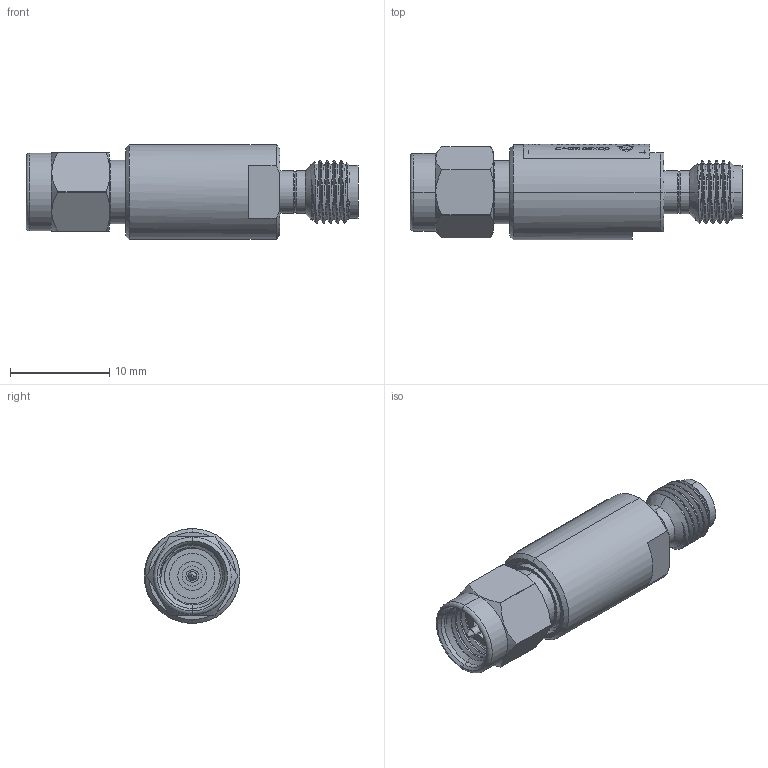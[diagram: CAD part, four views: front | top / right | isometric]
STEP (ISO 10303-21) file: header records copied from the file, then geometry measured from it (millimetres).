
FILE_DESCRIPTION (( 'STEP AP214' ), '1' );
FILE_NAME ('DD-46-1840-10PF-P-292MF.STEP', '2025-10-27T18:03:00', ( '' ), ( '' ), 'SwSTEP 2.0', 'SolidWorks 2024', '' );
FILE_SCHEMA (( 'AUTOMOTIVE_DESIGN' ));
Length unit declared in the file: millimetre
Products named in the file (1): DD-46-1840-10PF-P-292MF
Bounding box: 33.38 x 9.59 x 9.53 mm (x, y, z)
Volume: 1208.8 mm3; surface area: 2860.8 mm2
Topology: 14 solids, 14 shells, 386 faces, 1340 edges, 1073 vertices
Faces by surface type: cylinder 231, plane 76, cone 59, bspline 12, torus 6, sphere 2
Entity records: 23610 total; most frequent: CARTESIAN_POINT 11330, ORIENTED_EDGE 2664, DIRECTION 1939, EDGE_CURVE 1332, VERTEX_POINT 1071, AXIS2_PLACEMENT_3D 773, EDGE_LOOP 501, B_SPLINE_CURVE_WITH_KNOTS 457
